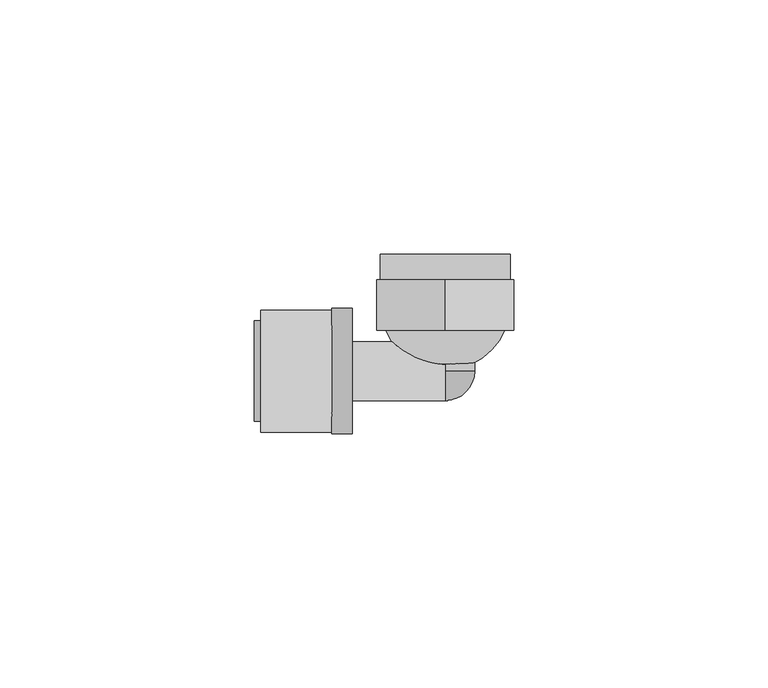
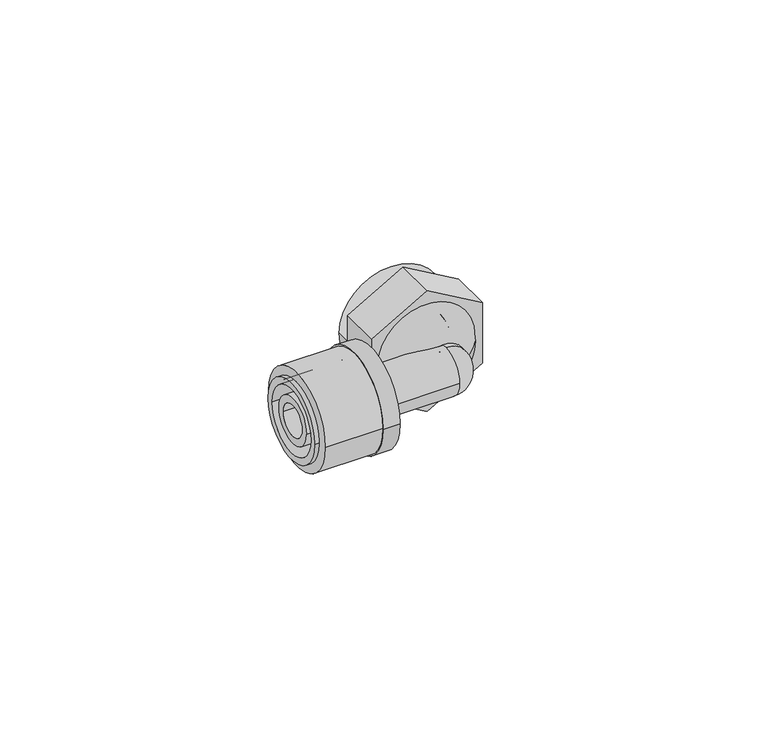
"""IFC4 building model written with IfcOpenShell, lengths in millimetres: pipe fitting geometry, FASTLOC_Elbow with female thread LX : FSL A internal CZ."""

from ifc_helpers import new_model, si_unit, point, frame, origin, origin_2d, place, context, project, spatial, polyline, circle_curve, ellipse_curve, trimmed, segment, composite_curve, outline, extrude, source, transform, mapped, element, save
from ifc_brep_helpers import plane_surface, cylinder_surface, revolved_surface, advanced_brep


def pipe_fitting_8d4eabeb(model_context):
    return source(origin(), model_context, "Body", "SolidModel", [
        extrude(outline(composite_curve([segment(trimmed(circle_curve(origin_2d(), 12.0), [point((12.0, 0.0))], [point((-12.0, 0.0))], False, "CARTESIAN"), True, "CONTINUOUS"), segment(trimmed(circle_curve(origin_2d(), 12.0), [point((-12.0, 0.0))], [point((12.0, 0.0))], False, "CARTESIAN"), True, "CONTINUOUS")], self_intersect=False), holes=[composite_curve([segment(trimmed(circle_curve(origin_2d(), 8.85), [point((8.85, 0.0))], [point((-8.85, 0.0))], True, "CARTESIAN"), True, "CONTINUOUS"), segment(trimmed(circle_curve(origin_2d(), 8.85), [point((-8.85, 0.0))], [point((8.85, 0.0))], True, "CARTESIAN"), True, "CONTINUOUS")], self_intersect=False)]), frame((-36.3, 0.0, 0.0), z_axis=(1.0, 0.0, 0.0), x_axis=(0.0, 1.0, 0.0)), (0.0, 0.0, 1.0), 14.0),
        advanced_brep(
        [(-22.3, -12.35, 0.0), (-22.3, 12.35, 0.0), (-18.3, 12.35, 0.0), (-18.3, -12.35, 0.0), (-37.6, -9.85, 0.0), (-37.6, 9.85, 0.0), (-22.3, 9.85, 0.0), (-22.3, -9.85, 0.0), (-18.3, -8.15, 0.0), (-18.3, 8.15, 0.0), (-37.6, 8.15, 0.0), (-37.6, -8.15, 0.0)],
        [
            (0, 1, circle_curve(frame((-22.3, 0.0, 0.0), z_axis=(1.0, 0.0, 0.0), x_axis=(0.0, 1.0, 0.0)), 12.35)),
            (1, 2),
            (2, 3, circle_curve(frame((-18.3, 0.0, 0.0), z_axis=(-1.0, 0.0, 0.0), x_axis=(0.0, 1.0, 0.0)), 12.35)),
            (3, 0),
            (4, 5, circle_curve(frame((-37.6, 0.0, 0.0), z_axis=(1.0, 0.0, 0.0), x_axis=(0.0, 1.0, 0.0)), 9.85)),
            (5, 6),
            (6, 7, circle_curve(frame((-22.3, 0.0, 0.0), z_axis=(-1.0, 0.0, 0.0), x_axis=(0.0, 1.0, 0.0)), 9.85)),
            (7, 4),
            (8, 9, circle_curve(frame((-18.3, 0.0, 0.0), z_axis=(1.0, 0.0, 0.0), x_axis=(0.0, 1.0, 0.0)), 8.15)),
            (9, 10),
            (10, 11, circle_curve(frame((-37.6, 0.0, 0.0), z_axis=(-1.0, 0.0, 0.0), x_axis=(0.0, 1.0, 0.0)), 8.15)),
            (11, 8),
            (1, 0, circle_curve(frame((-22.3, 0.0, 0.0), z_axis=(1.0, 0.0, 0.0), x_axis=(0.0, -1.0, 0.0)), 12.35)),
            (3, 2, circle_curve(frame((-18.3, 0.0, 0.0), z_axis=(-1.0, 0.0, 0.0), x_axis=(0.0, -1.0, 0.0)), 12.35)),
            (6, 7, circle_curve(frame((-22.3, 0.0, 0.0), z_axis=(1.0, 0.0, 0.0), x_axis=(0.0, -1.0, 0.0)), 9.85)),
            (5, 4, circle_curve(frame((-37.6, 0.0, 0.0), z_axis=(1.0, 0.0, 0.0), x_axis=(0.0, -1.0, 0.0)), 9.85)),
            (10, 11, circle_curve(frame((-37.6, 0.0, 0.0), z_axis=(1.0, 0.0, 0.0), x_axis=(0.0, -1.0, 0.0)), 8.15)),
            (9, 8, circle_curve(frame((-18.3, 0.0, 0.0), z_axis=(1.0, 0.0, 0.0), x_axis=(0.0, -1.0, 0.0)), 8.15)),
        ],
        [
            cylinder_surface(frame((-18.3, 0.0, 0.0), z_axis=(-1.0, 0.0, 0.0), x_axis=(0.0, 1.0, 0.0)), 12.35),
            cylinder_surface(frame((-18.3, 0.0, 0.0), z_axis=(-1.0, 0.0, 0.0), x_axis=(0.0, 1.0, 0.0)), 9.85),
            revolved_surface(polyline([(-37.6, 8.15, 0.0), (-18.3, 8.15, 0.0)]), (-18.3, 0.0, 0.0), (-1.0, 0.0, 0.0)),
            cylinder_surface(frame((-18.3, 0.0, 0.0), z_axis=(-1.0, 0.0, 0.0), x_axis=(0.0, -1.0, 0.0)), 12.35),
            plane_surface(frame((-22.3, 0.0, 0.0), z_axis=(-1.0, 0.0, 0.0), x_axis=(0.0, -1.0, 0.0))),
            cylinder_surface(frame((-18.3, 0.0, 0.0), z_axis=(-1.0, 0.0, 0.0), x_axis=(0.0, -1.0, 0.0)), 9.85),
            plane_surface(frame((-37.6, 0.0, 0.0), z_axis=(-1.0, 0.0, 0.0), x_axis=(0.0, -1.0, 0.0))),
            revolved_surface(polyline([(-37.6, -8.15, 0.0), (-18.3, -8.15, 0.0)]), (-18.3, 0.0, 0.0), (-1.0, 0.0, 0.0)),
            plane_surface(frame((-18.3, 0.0, 0.0), z_axis=(1.0, 0.0, 0.0), x_axis=(0.0, -1.0, 0.0))),
        ],
        [
            (0, [[1, 2, 3, 4]]),
            (1, [[5, 6, 7, 8]]),
            (2, [[9, 10, 11, 12]]),
            (3, [[13, -4, 14, -2]]),
            (4, [[-13, -1], [15, -7]]),
            (5, [[16, -8, -15, -6]]),
            (6, [[-16, -5], [17, -11]]),
            (7, [[18, -12, -17, -10]]),
            (8, [[-14, -3], [-18, -9]]),
        ],
    ),
        advanced_brep(
        [(0.5, 0.2598077, 0.0), (-0.5, 0.2598077, 0.0), (-12.75, 13.0, 0.0), (12.75, 13.0, 0.0), (0.5, 5.5166852, 0.0), (-0.5, 5.5166852, 0.0), (7.5, 13.0, 0.0), (-7.5, 13.0, 0.0), (7.5, 23.0, 0.0), (-7.5, 23.0, 0.0), (-12.75, 23.0, 0.0), (12.75, 23.0, 0.0)],
        [
            (0, 1, circle_curve(frame((0.0, 0.2598077, 0.0), z_axis=(0.0, 1.0, 0.0), x_axis=(-1.0, 0.0, 0.0)), 0.5)),
            (1, 2, circle_curve(frame((0.0, 13.0, 0.0), z_axis=(0.0, 0.0, -1.0), x_axis=(0.0, 1.0, 0.0)), 12.75)),
            (2, 3, circle_curve(frame((0.0, 13.0, 0.0), z_axis=(0.0, -1.0, 0.0), x_axis=(-1.0, 0.0, 0.0)), 12.75)),
            (3, 0, circle_curve(frame((0.0, 13.0, 0.0), z_axis=(0.0, 0.0, -1.0), x_axis=(0.0, 1.0, 0.0)), 12.75)),
            (4, 5, circle_curve(frame((0.0, 5.5166852, 0.0), z_axis=(0.0, 1.0, 0.0), x_axis=(-1.0, 0.0, 0.0)), 0.5)),
            (5, 1),
            (0, 4),
            (6, 7, circle_curve(frame((0.0, 13.0, 0.0), z_axis=(0.0, 1.0, 0.0), x_axis=(-1.0, 0.0, 0.0)), 7.5)),
            (7, 5, circle_curve(frame((0.0, 13.0, 0.0), z_axis=(0.0, 0.0, 1.0), x_axis=(0.0, 1.0, 0.0)), 7.5)),
            (4, 6, circle_curve(frame((0.0, 13.0, 0.0), z_axis=(0.0, 0.0, 1.0), x_axis=(0.0, 1.0, 0.0)), 7.5)),
            (8, 9, circle_curve(frame((0.0, 23.0, 0.0), z_axis=(0.0, 1.0, 0.0), x_axis=(-1.0, 0.0, 0.0)), 7.5)),
            (9, 7),
            (6, 8),
            (2, 10),
            (10, 11, circle_curve(frame((0.0, 23.0, 0.0), z_axis=(0.0, -1.0, 0.0), x_axis=(-1.0, 0.0, 0.0)), 12.75)),
            (11, 3),
            (1, 0, circle_curve(frame((0.0, 0.2598077, 0.0), z_axis=(0.0, 1.0, 0.0), x_axis=(1.0, 0.0, 0.0)), 0.5)),
            (3, 2, circle_curve(frame((0.0, 13.0, 0.0), z_axis=(0.0, -1.0, 0.0), x_axis=(1.0, 0.0, 0.0)), 12.75)),
            (5, 4, circle_curve(frame((0.0, 5.5166852, 0.0), z_axis=(0.0, 1.0, 0.0), x_axis=(1.0, 0.0, 0.0)), 0.5)),
            (7, 6, circle_curve(frame((0.0, 13.0, 0.0), z_axis=(0.0, 1.0, 0.0), x_axis=(1.0, 0.0, 0.0)), 7.5)),
            (9, 8, circle_curve(frame((0.0, 23.0, 0.0), z_axis=(0.0, 1.0, 0.0), x_axis=(1.0, 0.0, 0.0)), 7.5)),
            (10, 11, circle_curve(frame((0.0, 23.0, 0.0), z_axis=(0.0, 1.0, 0.0), x_axis=(1.0, 0.0, 0.0)), 12.75)),
        ],
        [
            revolved_surface(trimmed(ellipse_curve(frame((0.0, 13.0, 0.0), z_axis=(0.0, 0.0, 1.0), x_axis=(0.0, 1.0, 0.0)), 12.75, 12.75), [point((-12.75, 13.0, 0.0))], [point((-0.5, 0.2598077, 0.0))], True, "CARTESIAN"), (0.0, 8.0, 0.0), (0.0, -1.0, 0.0)),
            revolved_surface(polyline([(-0.5, 0.25980769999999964, 0.0), (-0.5, 5.5166852, 0.0)]), (0.0, 8.0, 0.0), (0.0, -1.0, 0.0)),
            revolved_surface(trimmed(ellipse_curve(frame((0.0, 13.0, 0.0), z_axis=(0.0, 0.0, -1.0), x_axis=(0.0, 1.0, 0.0)), 7.5, 7.5), [point((-0.5, 5.5166852, 0.0))], [point((-7.5, 13.0, 0.0))], True, "CARTESIAN"), (0.0, 8.0, 0.0), (0.0, -1.0, 0.0)),
            revolved_surface(polyline([(-7.5, 13.0, 0.0), (-7.5, 23.0, 0.0)]), (0.0, 8.0, 0.0), (0.0, -1.0, 0.0)),
            cylinder_surface(frame((0.0, 8.0, 0.0), z_axis=(0.0, -1.0, 0.0), x_axis=(-1.0, 0.0, 0.0)), 12.75),
            revolved_surface(trimmed(ellipse_curve(frame((0.0, 13.0, 0.0), z_axis=(0.0, 0.0, -1.0), x_axis=(0.0, 1.0, 0.0)), 12.75, 12.75), [point((12.75, 13.0, 0.0))], [point((0.5, 0.2598077, 0.0))], True, "CARTESIAN"), (0.0, 8.0, 0.0), (0.0, -1.0, 0.0)),
            revolved_surface(polyline([(0.5, 0.25980769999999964, 0.0), (0.5, 5.5166852, 0.0)]), (0.0, 8.0, 0.0), (0.0, -1.0, 0.0)),
            revolved_surface(trimmed(ellipse_curve(frame((0.0, 13.0, 0.0), z_axis=(0.0, 0.0, 1.0), x_axis=(0.0, 1.0, 0.0)), 7.5, 7.5), [point((0.5, 5.5166852, 0.0))], [point((7.5, 13.0, 0.0))], True, "CARTESIAN"), (0.0, 8.0, 0.0), (0.0, -1.0, 0.0)),
            revolved_surface(polyline([(7.5, 13.0, 0.0), (7.5, 23.0, 0.0)]), (0.0, 8.0, 0.0), (0.0, -1.0, 0.0)),
            plane_surface(frame((0.0, 23.0, 0.0), z_axis=(0.0, 1.0, 0.0), x_axis=(1.0, 0.0, 0.0))),
            cylinder_surface(frame((0.0, 8.0, 0.0), z_axis=(0.0, -1.0, 0.0), x_axis=(1.0, 0.0, 0.0)), 12.75),
        ],
        [
            (0, [[1, 2, 3, 4]]),
            (1, [[5, 6, -1, 7]]),
            (2, [[8, 9, -5, 10]]),
            (3, [[11, 12, -8, 13]]),
            (4, [[-3, 14, 15, 16]]),
            (5, [[17, -4, 18, -2]]),
            (6, [[19, -7, -17, -6]]),
            (7, [[20, -10, -19, -9]]),
            (8, [[21, -13, -20, -12]]),
            (9, [[22, -15], [-21, -11]]),
            (10, [[-18, -16, -22, -14]]),
        ],
    ),
        advanced_brep(
        [(-22.3, 5.8, 0.0), (-22.3, -5.8, 0.0), (-37.3, -5.8, 0.0), (-37.3, 5.8, 0.0), (-19.6, 6.9, 0.0), (-19.6, -6.9, 0.0), (-22.3, -6.9, 0.0), (-22.3, 6.9, 0.0), (0.0, 5.8, 0.0), (0.0, -5.8, 0.0), (-19.6, -5.8, 0.0), (-19.6, 5.8, 0.0), (-37.3, 3.95, 0.0), (-37.3, -3.95, 0.0), (0.0, -3.95, 0.0), (0.0, 3.95, 0.0)],
        [
            (0, 1, circle_curve(frame((-22.3, 0.0, 0.0), z_axis=(-1.0, 0.0, 0.0), x_axis=(0.0, -1.0, 0.0)), 5.8)),
            (1, 2),
            (2, 3, circle_curve(frame((-37.3, 0.0, 0.0), z_axis=(1.0, 0.0, 0.0), x_axis=(0.0, -1.0, 0.0)), 5.8)),
            (3, 0),
            (4, 5, circle_curve(frame((-19.6, 0.0, 0.0), z_axis=(-1.0, 0.0, 0.0), x_axis=(0.0, -1.0, 0.0)), 6.9)),
            (5, 6),
            (6, 7, circle_curve(frame((-22.3, 0.0, 0.0), z_axis=(1.0, 0.0, 0.0), x_axis=(0.0, -1.0, 0.0)), 6.9)),
            (7, 4),
            (8, 9, circle_curve(frame((0.0, 0.0, 0.0), z_axis=(-1.0, 0.0, 0.0), x_axis=(0.0, -1.0, 0.0)), 5.8)),
            (9, 10),
            (10, 11, circle_curve(frame((-19.6, 0.0, 0.0), z_axis=(1.0, 0.0, 0.0), x_axis=(0.0, -1.0, 0.0)), 5.8)),
            (11, 8),
            (12, 13, circle_curve(frame((-37.3, 0.0, 0.0), z_axis=(-1.0, 0.0, 0.0), x_axis=(0.0, -1.0, 0.0)), 3.95)),
            (13, 14),
            (14, 15, circle_curve(frame((0.0, 0.0, 0.0), z_axis=(1.0, 0.0, 0.0), x_axis=(0.0, -1.0, 0.0)), 3.95)),
            (15, 12),
            (2, 3, circle_curve(frame((-37.3, 0.0, 0.0), z_axis=(-1.0, 0.0, 0.0), x_axis=(0.0, 1.0, 0.0)), 5.8)),
            (12, 13, circle_curve(frame((-37.3, 0.0, 0.0), z_axis=(1.0, 0.0, 0.0), x_axis=(0.0, 1.0, 0.0)), 3.95)),
            (1, 0, circle_curve(frame((-22.3, 0.0, 0.0), z_axis=(-1.0, 0.0, 0.0), x_axis=(0.0, 1.0, 0.0)), 5.8)),
            (6, 7, circle_curve(frame((-22.3, 0.0, 0.0), z_axis=(-1.0, 0.0, 0.0), x_axis=(0.0, 1.0, 0.0)), 6.9)),
            (5, 4, circle_curve(frame((-19.6, 0.0, 0.0), z_axis=(-1.0, 0.0, 0.0), x_axis=(0.0, 1.0, 0.0)), 6.9)),
            (10, 11, circle_curve(frame((-19.6, 0.0, 0.0), z_axis=(-1.0, 0.0, 0.0), x_axis=(0.0, 1.0, 0.0)), 5.8)),
            (9, 8, circle_curve(frame((0.0, 0.0, 0.0), z_axis=(-1.0, 0.0, 0.0), x_axis=(0.0, 1.0, 0.0)), 5.8)),
            (14, 15, circle_curve(frame((0.0, 0.0, 0.0), z_axis=(-1.0, 0.0, 0.0), x_axis=(0.0, 1.0, 0.0)), 3.95)),
        ],
        [
            cylinder_surface(frame((0.0, 0.0, 0.0), z_axis=(1.0, 0.0, 0.0), x_axis=(0.0, -1.0, 0.0)), 5.8),
            cylinder_surface(frame((0.0, 0.0, 0.0), z_axis=(1.0, 0.0, 0.0), x_axis=(0.0, -1.0, 0.0)), 6.9),
            revolved_surface(polyline([(0.0, -3.95, 0.0), (-37.3, -3.95, 0.0)]), (0.0, 0.0, 0.0), (1.0, 0.0, 0.0)),
            plane_surface(frame((-37.3, 0.0, 0.0), z_axis=(-1.0, 0.0, 0.0), x_axis=(0.0, 1.0, 0.0))),
            cylinder_surface(frame((0.0, 0.0, 0.0), z_axis=(1.0, 0.0, 0.0), x_axis=(0.0, 1.0, 0.0)), 5.8),
            plane_surface(frame((-22.3, 0.0, 0.0), z_axis=(-1.0, 0.0, 0.0), x_axis=(0.0, 1.0, 0.0))),
            cylinder_surface(frame((0.0, 0.0, 0.0), z_axis=(1.0, 0.0, 0.0), x_axis=(0.0, 1.0, 0.0)), 6.9),
            plane_surface(frame((-19.6, 0.0, 0.0), z_axis=(1.0, 0.0, 0.0), x_axis=(0.0, 1.0, 0.0))),
            plane_surface(frame((0.0, 0.0, 0.0), z_axis=(1.0, 0.0, 0.0), x_axis=(0.0, 1.0, 0.0))),
            revolved_surface(polyline([(0.0, 3.95, 0.0), (-37.3, 3.95, 0.0)]), (0.0, 0.0, 0.0), (1.0, 0.0, 0.0)),
        ],
        [
            (0, [[1, 2, 3, 4]]),
            (1, [[5, 6, 7, 8]]),
            (0, [[9, 10, 11, 12]]),
            (2, [[13, 14, 15, 16]]),
            (3, [[17, -3], [18, -13]]),
            (4, [[19, -4, -17, -2]]),
            (5, [[20, -7], [-19, -1]]),
            (6, [[21, -8, -20, -6]]),
            (7, [[-21, -5], [22, -11]]),
            (4, [[23, -12, -22, -10]]),
            (8, [[-23, -9], [24, -15]]),
            (9, [[-18, -16, -24, -14]]),
        ],
    ),
        advanced_brep(
        [(0.0, 0.0, 5.8), (0.0, 0.0, 2.9), (0.0, -2.9, 0.0), (0.0, -5.8, 0.0), (0.0, 0.0, -5.8), (0.0, 0.0, -2.9)],
        [
            (0, 1),
            (1, 2, circle_curve(frame((0.0, 0.0, 0.0), z_axis=(1.0, 0.0, 0.0), x_axis=(0.0, 0.0, 1.0)), 2.9)),
            (2, 3),
            (3, 0, circle_curve(frame((0.0, 0.0, 0.0), z_axis=(-1.0, 0.0, 0.0), x_axis=(0.0, 0.0, 1.0)), 5.8)),
            (4, 3, circle_curve(frame((0.0, 0.0, 0.0), z_axis=(-1.0, 0.0, 0.0), x_axis=(0.0, 0.0, -1.0)), 5.8)),
            (2, 5, circle_curve(frame((0.0, 0.0, 0.0), z_axis=(1.0, 0.0, 0.0), x_axis=(0.0, 0.0, -1.0)), 2.9)),
            (5, 4),
            (5, 1, circle_curve(frame((0.0, 0.0, 0.0), z_axis=(0.0, -1.0, 0.0), x_axis=(0.0, 0.0, 1.0)), 2.9)),
            (0, 4, circle_curve(frame((0.0, 0.0, 0.0), z_axis=(0.0, 1.0, 0.0), x_axis=(0.0, 0.0, 1.0)), 5.8)),
        ],
        [
            plane_surface(frame((0.0, 0.0, 0.0), z_axis=(-1.0, 0.0, 0.0), x_axis=(0.0, 0.0, 1.0))),
            plane_surface(frame((0.0, 0.0, 0.0), z_axis=(-1.0, 0.0, 0.0), x_axis=(0.0, 0.0, -1.0))),
            plane_surface(frame((0.0, 0.0, 0.0), z_axis=(0.0, 1.0, 0.0), x_axis=(0.0, 0.0, 1.0))),
            revolved_surface(trimmed(ellipse_curve(frame((0.0, 0.0, 0.0), z_axis=(1.0, 0.0, 0.0), x_axis=(0.0, 0.0, 1.0)), 2.9, 2.9), [point((0.0, 0.0, 2.9))], [point((0.0, -2.9, 0.0))], True, "CARTESIAN"), (0.0, 0.0, 0.0), (0.0, 1.0, 0.0)),
            revolved_surface(trimmed(ellipse_curve(frame((0.0, 0.0, 0.0), z_axis=(-1.0, 0.0, 0.0), x_axis=(0.0, 0.0, 1.0)), 5.8, 5.8), [point((0.0, -5.8, 0.0))], [point((0.0, 0.0, 5.8))], True, "CARTESIAN"), (0.0, 0.0, 0.0), (0.0, 1.0, 0.0)),
        ],
        [
            (0, [[1, 2, 3, 4]]),
            (1, [[5, -3, 6, 7]]),
            (2, [[8, -1, 9, -7]]),
            (3, [[-2, -8, -6]]),
            (4, [[-9, -4, -5]]),
        ],
    ),
        extrude(outline(polyline([(-7.7942286, 13.5), (7.7942286, 13.5), (15.5884573, 0.0), (7.7942286, -13.5), (-7.7942286, -13.5), (-15.5884573, 0.0), (-7.7942286, 13.5)])), frame((0.0, 8.0, 0.0), z_axis=(0.0, 1.0, 0.0), x_axis=(0.0, 0.0, 1.0)), (0.0, 0.0, 1.0), 10.0),
        extrude(outline(composite_curve([segment(trimmed(circle_curve(origin_2d(), 5.8), [point((0.0, -5.8))], [point((0.0, 5.8))], False, "CARTESIAN"), True, "CONTINUOUS"), segment(trimmed(circle_curve(origin_2d(), 5.8), [point((0.0, 5.8))], [point((0.0, -5.8))], False, "CARTESIAN"), True, "CONTINUOUS")], self_intersect=False), holes=[composite_curve([segment(trimmed(circle_curve(origin_2d(), 3.95), [point((0.0, -3.95))], [point((0.0, 3.95))], True, "CARTESIAN"), True, "CONTINUOUS"), segment(trimmed(circle_curve(origin_2d(), 3.95), [point((0.0, 3.95))], [point((0.0, -3.95))], True, "CARTESIAN"), True, "CONTINUOUS")], self_intersect=False)]), frame((0.0, 0.0, 0.0), z_axis=(0.0, 1.0, 0.0), x_axis=(0.0, 0.0, 1.0)), (0.0, 0.0, 1.0), 8.0),
    ])


if __name__ == "__main__":
    model = new_model("IFC4")
    model_context = context("Model", 3, world=origin())
    ifc_project = project(units=[si_unit("LENGTHUNIT", "METRE", prefix="MILLI")], contexts=[model_context])
    site = spatial("IfcSite", under=ifc_project)
    building = spatial("IfcBuilding", under=site)
    placement = place(None, origin())
    pipe_fitting_shape = pipe_fitting_8d4eabeb(model_context)
    element("IfcPipeFitting", 1, ObjectType="FASTLOC_Elbow with female thread LX : FSL A internal CZ", at=placement, inside=building, context=model_context, shape_type="MappedRepresentation", body=[
        mapped(pipe_fitting_shape, transform((0.0, 0.0, 0.0), x_axis=(1.0, 0.0, 0.0), y_axis=(0.0, 1.0, 0.0), z_axis=(0.0, 0.0, 1.0))),
    ])
    save(model, "model.ifc")
